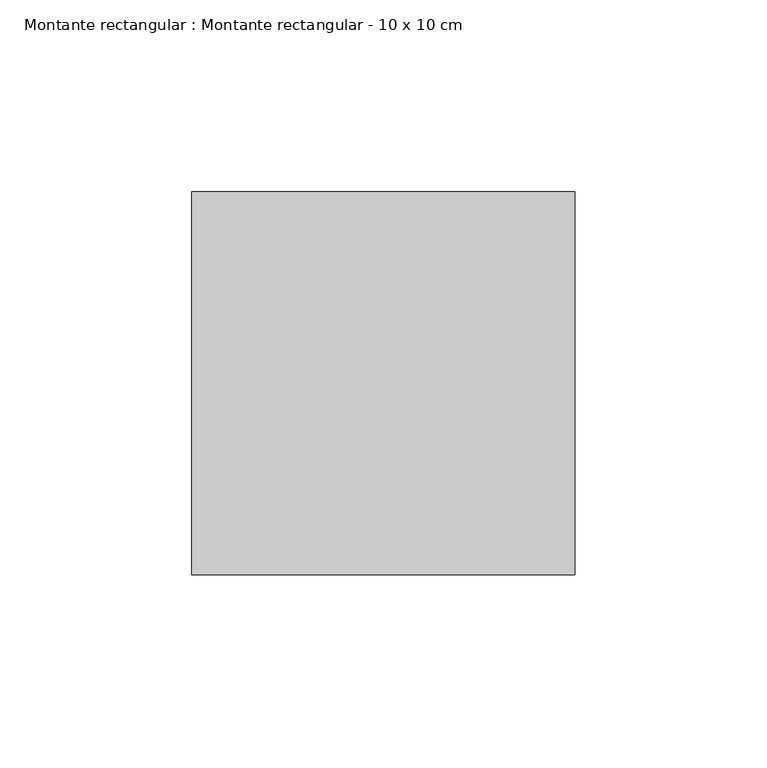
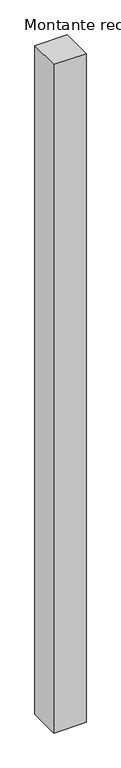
"""IFC4 building model written with IfcOpenShell, lengths in millimetres: member geometry, Montante rectangular : Montante rectangular - 10 x 10 cm."""

from ifc_helpers import new_model, si_unit, frame, origin, place, context, project, spatial, polyline, outline, extrude, source, transform, mapped, element, save


def montante_rectangular_montante_rectangular_10_x_10_cm_6ed3e390(model_context):
    return source(origin(), model_context, "Body", "SweptSolid", [
        extrude(outline(polyline([(-100.0, -50.0), (-100.0, 50.0), (0.0, 50.0), (0.0, -50.0), (-100.0, -50.0)])), frame((0.0, 0.0, -2180.0), z_axis=(0.0, 0.0, 1.0), x_axis=(1.0, 0.0, 0.0)), (0.0, 0.0, 1.0), 2180.0),
    ])


if __name__ == "__main__":
    model = new_model("IFC4")
    model_context = context("Model", 3, world=origin())
    ifc_project = project(units=[si_unit("LENGTHUNIT", "METRE", prefix="MILLI")], contexts=[model_context])
    site = spatial("IfcSite", under=ifc_project)
    building = spatial("IfcBuilding", under=site)
    placement = place(None, origin())
    montante_rectangular_montante_rectangular_10_x_10_cm_shape = montante_rectangular_montante_rectangular_10_x_10_cm_6ed3e390(model_context)
    element("IfcMember", 1, ObjectType="Montante rectangular : Montante rectangular - 10 x 10 cm", at=placement, inside=building, context=model_context, shape_type="MappedRepresentation", body=[
        mapped(montante_rectangular_montante_rectangular_10_x_10_cm_shape, transform((0.0, 0.0, 0.0), x_axis=(1.0, 0.0, 0.0), y_axis=(0.0, 1.0, 0.0), z_axis=(0.0, 0.0, 1.0))),
    ])
    save(model, "model.ifc")
